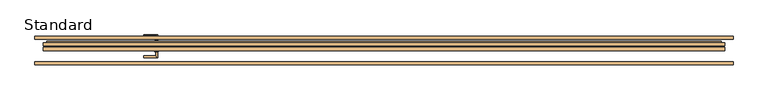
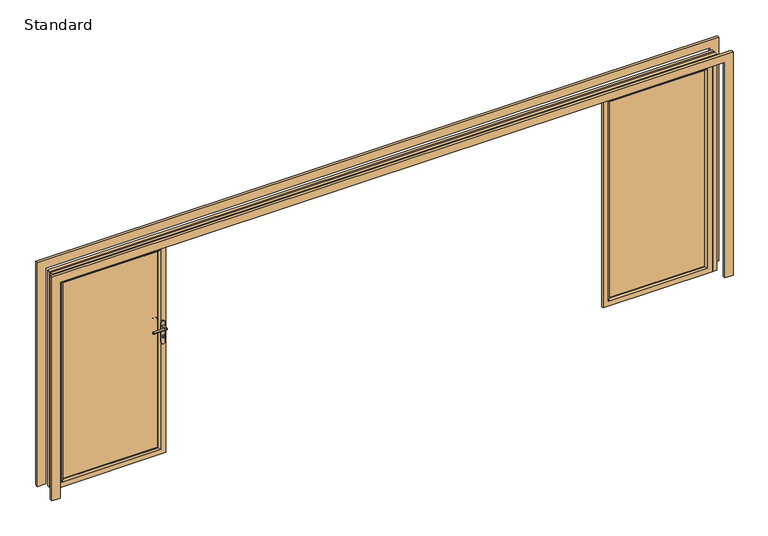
"""IFC4 building model written with IfcOpenShell, lengths in millimetres: door geometry, SMARTS_Visofold1000 : Standard."""

from ifc_helpers import new_model, si_unit, point, frame, frame_2d, origin, place, context, project, spatial, polyline, circle_curve, ellipse_curve, trimmed, segment, composite_curve, outline, extrude, faceted_brep, source, transform, mapped, element, save
from ifc_brep_helpers import plane_surface, cylinder_surface, advanced_brep


def standard_0b3dd210(model_context):
    return source(origin(), model_context, "Body", "SolidModel", [
        advanced_brep(
        [(2033.8333333, 13.3, 60.5), (2033.8333333, 17.4, 60.5), (2033.8333333, 17.4, 1939.5), (2033.8333333, 13.3, 1939.5), (1973.3333333, 17.4, 0.0), (1973.3333333, 0.0, 0.0), (1973.3333333, 0.0, 2000.0), (1973.3333333, 17.4, 2000.0), (2899.5, 17.4, 1939.5), (2899.5, 13.3, 1939.5), (2960.0, 0.0, 2000.0), (2960.0, 17.4, 2000.0), (2899.5, 17.4, 60.5), (2899.5, 13.3, 60.5), (2960.0, 0.0, 0.0), (2960.0, 17.4, 0.0), (2020.5333333, 0.0, 1952.8), (2912.8, 0.0, 1952.8), (2912.8, 0.0, 47.2), (2020.5333333, 0.0, 47.2), (1991.2024814, 34.8, 17.8691481), (1991.2024814, 17.4, 17.8691481), (1991.2024814, 17.4, 1982.1308519), (1991.2024814, 34.8, 1982.1308519), (2942.1308519, 17.4, 1982.1308519), (2942.1308519, 34.8, 1982.1308519), (2942.1308519, 17.4, 17.8691481), (2942.1308519, 34.8, 17.8691481), (2018.3333333, 17.4, 45.0), (2018.3333333, 34.8, 45.0), (2018.3333333, 34.8, 1955.0), (2018.3333333, 17.4, 1955.0), (2915.0, 34.8, 1955.0), (2915.0, 17.4, 1955.0), (2915.0, 34.8, 45.0), (2915.0, 17.4, 45.0)],
        [
            (0, 1),
            (1, 2),
            (2, 3),
            (3, 0),
            (4, 5),
            (5, 6),
            (6, 7),
            (7, 4),
            (2, 8),
            (8, 9),
            (9, 3),
            (6, 10),
            (10, 11),
            (11, 7),
            (8, 12),
            (12, 13),
            (13, 9),
            (10, 14),
            (14, 15),
            (15, 11),
            (12, 1),
            (0, 13),
            (5, 14),
            (16, 17),
            (17, 18),
            (18, 19),
            (19, 16),
            (4, 15),
            (19, 0, ellipse_curve(frame((2020.5333333, 13.3, 47.2), z_axis=(-0.70710678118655, 0.0, 0.707106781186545), x_axis=(-0.707106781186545, 0.0, -0.7071067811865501)), 18.8090404, 13.3)),
            (3, 16, ellipse_curve(frame((2020.5333333, 13.3, 1952.8), z_axis=(-0.7071067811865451, 0.0, -0.7071067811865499), x_axis=(0.70710678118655, 0.0, -0.7071067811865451)), 18.8090404, 13.3)),
            (9, 17, ellipse_curve(frame((2912.8, 13.3, 1952.8), z_axis=(-0.70710678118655, 0.0, 0.707106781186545), x_axis=(-0.707106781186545, 0.0, -0.7071067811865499)), 18.8090404, 13.3)),
            (13, 18, ellipse_curve(frame((2912.8, 13.3, 47.2), z_axis=(0.7071067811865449, 0.0, 0.70710678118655), x_axis=(-0.7071067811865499, 0.0, 0.707106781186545)), 18.8090404, 13.3)),
            (20, 21),
            (21, 22),
            (22, 23),
            (23, 20),
            (22, 24),
            (24, 25),
            (25, 23),
            (24, 26),
            (26, 27),
            (27, 25),
            (21, 26),
            (20, 27),
            (28, 29),
            (29, 30),
            (30, 31),
            (31, 28),
            (30, 32),
            (32, 33),
            (33, 31),
            (32, 34),
            (34, 35),
            (35, 33),
            (34, 29),
            (28, 35),
        ],
        [
            plane_surface(frame((2033.8333333, 17.4, 60.5), z_axis=(1.0, 0.0, 0.0), x_axis=(0.0, 0.0, 1.0))),
            plane_surface(frame((1973.3333333, 0.0, 0.0), z_axis=(-1.0, 0.0, 0.0), x_axis=(0.0, 0.0, 1.0))),
            plane_surface(frame((2033.8333333, 17.4, 1939.5), z_axis=(0.0, 0.0, -1.0), x_axis=(1.0, 0.0, 0.0))),
            plane_surface(frame((1973.3333333, 0.0, 2000.0), z_axis=(0.0, 0.0, 1.0), x_axis=(1.0, 0.0, 0.0))),
            plane_surface(frame((2899.5, 17.4, 1939.5), z_axis=(-1.0, 0.0, 0.0), x_axis=(0.0, 0.0, -1.0))),
            plane_surface(frame((2960.0, 0.0, 2000.0), z_axis=(1.0, 0.0, 0.0), x_axis=(0.0, 0.0, -1.0))),
            plane_surface(frame((2899.5, 17.4, 60.5), z_axis=(0.0, 0.0, 1.0), x_axis=(-1.0, 0.0, 0.0))),
            plane_surface(frame((2912.8, 0.0, 47.2), z_axis=(0.0, -1.0, 0.0), x_axis=(-1.0, 0.0, 0.0))),
            plane_surface(frame((2960.0, 0.0, 0.0), z_axis=(0.0, 0.0, -1.0), x_axis=(-1.0, 0.0, 0.0))),
            cylinder_surface(frame((2020.5333333, 13.3, 0.0), z_axis=(0.0, 0.0, -1.0), x_axis=(0.0, 1.0, 0.0)), 13.3),
            cylinder_surface(frame((1973.3333333, 13.3, 1952.8), z_axis=(-1.0, 0.0, 0.0), x_axis=(0.0, 1.0, 0.0)), 13.3),
            cylinder_surface(frame((2912.8, 13.3, 2000.0), z_axis=(0.0, 0.0, 1.0), x_axis=(0.0, 1.0, 0.0)), 13.3),
            cylinder_surface(frame((2960.0, 13.3, 47.2), z_axis=(1.0, 0.0, 0.0), x_axis=(0.0, 1.0, 0.0)), 13.3),
            plane_surface(frame((1991.2024814, 17.4, 17.8691481), z_axis=(-1.0, 0.0, 0.0), x_axis=(0.0, 0.0, 1.0))),
            plane_surface(frame((1991.2024814, 17.4, 1982.1308519), z_axis=(0.0, 0.0, 1.0), x_axis=(1.0, 0.0, 0.0))),
            plane_surface(frame((2942.1308519, 17.4, 1982.1308519), z_axis=(1.0, 0.0, 0.0), x_axis=(0.0, 0.0, -1.0))),
            plane_surface(frame((2960.0, 17.4, 0.0), z_axis=(0.0, 1.0, 0.0), x_axis=(-1.0, 0.0, 0.0))),
            plane_surface(frame((2942.1308519, 17.4, 17.8691481), z_axis=(0.0, 0.0, -1.0), x_axis=(-1.0, 0.0, 0.0))),
            plane_surface(frame((2018.3333333, 34.8, 45.0), z_axis=(1.0, 0.0, 0.0), x_axis=(0.0, 0.0, 1.0))),
            plane_surface(frame((2018.3333333, 34.8, 1955.0), z_axis=(0.0, 0.0, -1.0), x_axis=(1.0, 0.0, 0.0))),
            plane_surface(frame((2915.0, 34.8, 1955.0), z_axis=(-1.0, 0.0, 0.0), x_axis=(0.0, 0.0, -1.0))),
            plane_surface(frame((2915.0, 34.8, 45.0), z_axis=(0.0, 0.0, 1.0), x_axis=(-1.0, 0.0, 0.0))),
            plane_surface(frame((2915.0, 17.4, 45.0), z_axis=(0.0, 1.0, 0.0), x_axis=(-1.0, 0.0, 0.0))),
            plane_surface(frame((2942.1308519, 34.8, 17.8691481), z_axis=(0.0, 1.0, 0.0), x_axis=(-1.0, 0.0, 0.0))),
        ],
        [
            (0, [[1, 2, 3, 4]]),
            (1, [[5, 6, 7, 8]]),
            (2, [[-3, 9, 10, 11]]),
            (3, [[-7, 12, 13, 14]]),
            (4, [[-10, 15, 16, 17]]),
            (5, [[-13, 18, 19, 20]]),
            (6, [[-16, 21, -1, 22]]),
            (7, [[23, -18, -12, -6], [24, 25, 26, 27]]),
            (8, [[-19, -23, -5, 28]]),
            (9, [[29, -4, 30, -27]]),
            (10, [[-30, -11, 31, -24]]),
            (11, [[-31, -17, 32, -25]]),
            (12, [[-32, -22, -29, -26]]),
            (13, [[33, 34, 35, 36]]),
            (14, [[-35, 37, 38, 39]]),
            (15, [[-38, 40, 41, 42]]),
            (16, [[-14, -20, -28, -8], [43, -40, -37, -34]]),
            (17, [[-41, -43, -33, 44]]),
            (18, [[45, 46, 47, 48]]),
            (19, [[-47, 49, 50, 51]]),
            (20, [[-50, 52, 53, 54]]),
            (21, [[-53, 55, -45, 56]]),
            (22, [[-51, -54, -56, -48], [-21, -15, -9, -2]]),
            (23, [[-39, -42, -44, -36], [-55, -52, -49, -46]]),
        ],
    ),
        extrude(outline(polyline([(2033.8333333, 50.1484783), (2899.5, 50.1484783), (2899.5, 21.4), (2033.8333333, 21.4), (2033.8333333, 50.1484783)])), frame((0.0, 0.0, 60.5), z_axis=(0.0, 0.0, 1.0), x_axis=(1.0, 0.0, 0.0)), (0.0, 0.0, 1.0), 1879.0),
        advanced_brep(
        [(-2003.3333333, 75.0, 1232.5996413), (-2003.3333333, 75.0, 1215.5996413), (-2003.3333333, 130.0, 1232.5996413), (-2003.3333333, 130.0, 1215.5996413), (-2118.3333333, 130.0, 1232.5996413), (-2118.3333333, 130.0, 1215.5996413)],
        [
            (0, 1, circle_curve(frame((-2003.3333333, 75.0, 1224.0996413), z_axis=(0.0, -1.0, 0.0), x_axis=(0.0, 0.0, -1.0)), 8.5)),
            (1, 0, circle_curve(frame((-2003.3333333, 75.0, 1224.0996413), z_axis=(0.0, -1.0, 0.0), x_axis=(0.0, 0.0, -1.0)), 8.5)),
            (0, 2),
            (2, 3, ellipse_curve(frame((-2003.3333333, 130.0, 1224.0996413), z_axis=(0.7071067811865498, -0.7071067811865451, 0.0), x_axis=(-0.707106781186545, -0.70710678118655, 0.0)), 12.0208153, 8.5)),
            (3, 1),
            (3, 2, ellipse_curve(frame((-2003.3333333, 130.0, 1224.0996413), z_axis=(0.7071067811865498, -0.7071067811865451, 0.0), x_axis=(-0.707106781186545, -0.70710678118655, 0.0)), 12.0208153, 8.5)),
            (4, 5, circle_curve(frame((-2118.3333333, 130.0, 1224.0996413), z_axis=(-1.0, 0.0, 0.0), x_axis=(0.0, 0.0, -1.0)), 8.5)),
            (5, 4, circle_curve(frame((-2118.3333333, 130.0, 1224.0996413), z_axis=(-1.0, 0.0, 0.0), x_axis=(0.0, 0.0, -1.0)), 8.5)),
            (2, 4),
            (5, 3),
        ],
        [
            plane_surface(frame((-2003.3333333, 75.0, 1224.0996413), z_axis=(0.0, -1.0, 0.0), x_axis=(0.0, 0.0, -1.0))),
            cylinder_surface(frame((-2003.3333333, 75.0, 1224.0996413), z_axis=(0.0, -1.0, 0.0), x_axis=(0.0, 0.0, -1.0)), 8.5),
            plane_surface(frame((-2118.3333333, 130.0, 1224.0996413), z_axis=(-1.0, 0.0, 0.0), x_axis=(0.0, 0.0, -1.0))),
            cylinder_surface(frame((-2003.3333333, 130.0, 1224.0996413), z_axis=(1.0, 0.0, 0.0), x_axis=(0.0, 0.0, -1.0)), 8.5),
        ],
        [
            (0, [[1, 2]]),
            (1, [[3, 4, 5, -1]]),
            (1, [[-5, 6, -3, -2]]),
            (2, [[7, 8]]),
            (3, [[9, -8, 10, -4]]),
            (3, [[-10, -7, -9, -6]]),
        ],
    ),
        extrude(outline(composite_curve([segment(polyline([(1258.0996413, -2019.3333333), (1070.0996413, -2019.3333333)]), True, "CONTINUOUS"), segment(trimmed(circle_curve(frame_2d((1070.0996413, -2003.3333333)), 16.0), [point((1070.0996413, -2019.3333333))], [point((1070.0996413, -1987.3333333))], False, "CARTESIAN"), True, "CONTINUOUS"), segment(polyline([(1070.0996413, -1987.3333333), (1258.0996413, -1987.3333333)]), True, "CONTINUOUS"), segment(trimmed(circle_curve(frame_2d((1258.0996413, -2003.3333333)), 16.0), [point((1258.0996413, -1987.3333333))], [point((1258.0996413, -2019.3333333))], False, "CARTESIAN"), True, "CONTINUOUS")], self_intersect=False)), frame((0.0, 75.0, 0.0), z_axis=(0.0, 1.0, 0.0), x_axis=(0.0, 0.0, 1.0)), (0.0, 0.0, 1.0), 10.0),
        advanced_brep(
        [(-2011.8333333, 0.0, 1224.0996413), (-1994.8333333, 0.0, 1224.0996413), (-1994.8333333, -63.5, 1224.0996413), (-2011.8333333, -46.5, 1224.0996413), (-2118.3333333, -46.5, 1224.0996413), (-2118.3333333, -63.5, 1224.0996413)],
        [
            (0, 1, circle_curve(frame((-2003.3333333, 0.0, 1224.0996413), z_axis=(0.0, 1.0, 0.0), x_axis=(1.0, 0.0, 0.0)), 8.5)),
            (1, 0, circle_curve(frame((-2003.3333333, 0.0, 1224.0996413), z_axis=(0.0, 1.0, 0.0), x_axis=(1.0, 0.0, 0.0)), 8.5)),
            (1, 2),
            (2, 3, ellipse_curve(frame((-2003.3333333, -55.0, 1224.0996413), z_axis=(0.7071067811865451, 0.7071067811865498, 0.0), x_axis=(-0.7071067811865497, 0.7071067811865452, 0.0)), 12.0208153, 8.5)),
            (3, 0),
            (3, 2, ellipse_curve(frame((-2003.3333333, -55.0, 1224.0996413), z_axis=(0.7071067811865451, 0.7071067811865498, 0.0), x_axis=(-0.7071067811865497, 0.7071067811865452, 0.0)), 12.0208153, 8.5)),
            (4, 5, circle_curve(frame((-2118.3333333, -55.0, 1224.0996413), z_axis=(-1.0, 0.0, 0.0), x_axis=(0.0, -1.0, 0.0)), 8.5)),
            (5, 4, circle_curve(frame((-2118.3333333, -55.0, 1224.0996413), z_axis=(-1.0, 0.0, 0.0), x_axis=(0.0, -1.0, 0.0)), 8.5)),
            (2, 5),
            (4, 3),
        ],
        [
            plane_surface(frame((-2003.3333333, 0.0, 1224.0996413), z_axis=(0.0, 1.0, 0.0), x_axis=(0.0, 0.0, -1.0))),
            cylinder_surface(frame((-2003.3333333, 0.0, 1224.0996413), z_axis=(0.0, 1.0, 0.0), x_axis=(1.0, 0.0, 0.0)), 8.5),
            plane_surface(frame((-2118.3333333, -55.0, 1224.0996413), z_axis=(-1.0, 0.0, 0.0), x_axis=(0.0, 0.0, -1.0))),
            cylinder_surface(frame((-2003.3333333, -55.0, 1224.0996413), z_axis=(1.0, 0.0, 0.0), x_axis=(0.0, -1.0, 0.0)), 8.5),
        ],
        [
            (0, [[1, 2]]),
            (1, [[3, 4, 5, -2]]),
            (1, [[-5, 6, -3, -1]]),
            (2, [[7, 8]]),
            (3, [[9, -7, 10, -4]]),
            (3, [[-10, -8, -9, -6]]),
        ],
    ),
        extrude(outline(composite_curve([segment(polyline([(1258.0996413, -2019.3333333), (1070.0996413, -2019.3333333)]), True, "CONTINUOUS"), segment(trimmed(circle_curve(frame_2d((1070.0996413, -2003.3333333)), 16.0), [point((1070.0996413, -2019.3333333))], [point((1070.0996413, -1987.3333333))], False, "CARTESIAN"), True, "CONTINUOUS"), segment(polyline([(1070.0996413, -1987.3333333), (1258.0996413, -1987.3333333)]), True, "CONTINUOUS"), segment(trimmed(circle_curve(frame_2d((1258.0996413, -2003.3333333)), 16.0), [point((1258.0996413, -1987.3333333))], [point((1258.0996413, -2019.3333333))], False, "CARTESIAN"), True, "CONTINUOUS")], self_intersect=False)), frame((0.0, -10.0, 0.0), z_axis=(0.0, 1.0, 0.0), x_axis=(0.0, 0.0, 1.0)), (0.0, 0.0, 1.0), 10.0),
        extrude(outline(composite_curve([segment(polyline([(1125.1769586, -2008.3227104), (1117.5996413, -2008.3227104)]), True, "CONTINUOUS"), segment(trimmed(circle_curve(frame_2d((1117.5996413, -2003.3227104)), 5.0), [point((1117.5996413, -2008.3227104))], [point((1117.5996413, -1998.3227104))], False, "CARTESIAN"), True, "CONTINUOUS"), segment(polyline([(1117.5996413, -1998.3227104), (1125.27562, -1998.3227104)]), True, "CONTINUOUS"), segment(trimmed(circle_curve(frame_2d((1132.0996413, -2003.3905239)), 8.5), [point((1125.27562, -1998.3227104))], [point((1125.1769586, -2008.3227104))], False, "CARTESIAN"), True, "CONTINUOUS")], self_intersect=False)), frame((0.0, 85.0, 0.0), z_axis=(0.0, 1.0, 0.0), x_axis=(0.0, 0.0, 1.0)), (0.0, 0.0, 1.0), 2.0),
        extrude(outline(composite_curve([segment(polyline([(1125.1769586, -2008.3227104), (1117.5996413, -2008.3227104)]), True, "CONTINUOUS"), segment(trimmed(circle_curve(frame_2d((1117.5996413, -2003.3227104)), 5.0), [point((1117.5996413, -2008.3227104))], [point((1117.5996413, -1998.3227104))], False, "CARTESIAN"), True, "CONTINUOUS"), segment(polyline([(1117.5996413, -1998.3227104), (1125.27562, -1998.3227104)]), True, "CONTINUOUS"), segment(trimmed(circle_curve(frame_2d((1132.0996413, -2003.3905239)), 8.5), [point((1125.27562, -1998.3227104))], [point((1125.1769586, -2008.3227104))], False, "CARTESIAN"), True, "CONTINUOUS")], self_intersect=False)), frame((0.0, -12.0, 0.0), z_axis=(0.0, 1.0, 0.0), x_axis=(0.0, 0.0, 1.0)), (0.0, 0.0, 1.0), 2.0),
        extrude(outline(polyline([(45.0, -2018.3333333), (1955.0, -2018.3333333), (1955.0, -2915.0), (45.0, -2915.0), (45.0, -2018.3333333)]), holes=[polyline([(1939.5, -2033.8333333), (60.5, -2033.8333333), (60.5, -2899.5), (1939.5, -2899.5), (1939.5, -2033.8333333)])]), frame((0.0, 17.4, 0.0), z_axis=(0.0, 1.0, 0.0), x_axis=(0.0, 0.0, 1.0)), (0.0, 0.0, 1.0), 35.0),
        faceted_brep([(-1973.3333333, 74.4, 0.0), (-1973.3333333, 74.4, 2000.0), (-1973.3333333, 52.4, 2000.0), (-1973.3333333, 52.4, 0.0), (-2033.8333333, 52.4, 60.5), (-2033.8333333, 52.4, 1939.5), (-2033.8333333, 74.4, 1939.5), (-2033.8333333, 74.4, 60.5), (-2960.0, 74.4, 0.0), (-2960.0, 52.4, 0.0), (-2960.0, 74.4, 2000.0), (-2960.0, 52.4, 2000.0), (-2899.5, 52.4, 1939.5), (-2899.5, 74.4, 1939.5), (-2899.5, 52.4, 60.5), (-2899.5, 74.4, 60.5), (-1991.2024814, 34.8, 17.8691481), (-1991.2024814, 34.8, 1982.1308519), (-2942.1308519, 34.8, 1982.1308519), (-2942.1308519, 34.8, 17.8691481), (-2018.3333333, 34.8, 1955.0), (-2018.3333333, 34.8, 45.0), (-2915.0, 34.8, 45.0), (-2915.0, 34.8, 1955.0), (-1991.2024814, 52.4, 17.8691481), (-1991.2024814, 52.4, 1982.1308519), (-2018.3333333, 52.4, 1955.0), (-2018.3333333, 52.4, 45.0), (-2942.1308519, 52.4, 1982.1308519), (-2915.0, 52.4, 1955.0), (-2942.1308519, 52.4, 17.8691481), (-2915.0, 52.4, 45.0)], [[[0, 1, 2, 3]], [[4, 5, 6, 7]], [[8, 0, 3, 9]], [[1, 10, 11, 2]], [[5, 12, 13, 6]], [[10, 8, 9, 11]], [[12, 14, 15, 13]], [[1, 0, 8, 10], [7, 6, 13, 15]], [[14, 4, 7, 15]], [[16, 17, 18, 19], [20, 21, 22, 23]], [[24, 25, 17, 16]], [[21, 20, 26, 27]], [[25, 28, 18, 17]], [[20, 23, 29, 26]], [[28, 30, 19, 18]], [[23, 22, 31, 29]], [[30, 24, 16, 19]], [[3, 2, 11, 9], [25, 24, 30, 28]], [[27, 26, 29, 31], [5, 4, 14, 12]], [[22, 21, 27, 31]]]),
        advanced_brep(
        [(-2033.8333333, 13.3, 60.5), (-2033.8333333, 13.3, 1939.5), (-2033.8333333, 17.4, 1939.5), (-2033.8333333, 17.4, 60.5), (-1973.3333333, 17.4, 0.0), (-1973.3333333, 17.4, 2000.0), (-1973.3333333, 0.0, 2000.0), (-1973.3333333, 0.0, 0.0), (-2899.5, 13.3, 1939.5), (-2899.5, 17.4, 1939.5), (-2960.0, 17.4, 2000.0), (-2960.0, 0.0, 2000.0), (-2899.5, 13.3, 60.5), (-2899.5, 17.4, 60.5), (-2960.0, 17.4, 0.0), (-2960.0, 0.0, 0.0), (-2020.5333333, 0.0, 1952.8), (-2020.5333333, 0.0, 47.2), (-2912.8, 0.0, 47.2), (-2912.8, 0.0, 1952.8), (-1991.2024814, 34.8, 17.8691481), (-1991.2024814, 34.8, 1982.1308519), (-1991.2024814, 17.4, 1982.1308519), (-1991.2024814, 17.4, 17.8691481), (-2942.1308519, 34.8, 1982.1308519), (-2942.1308519, 17.4, 1982.1308519), (-2942.1308519, 34.8, 17.8691481), (-2942.1308519, 17.4, 17.8691481), (-2018.3333333, 17.4, 45.0), (-2018.3333333, 17.4, 1955.0), (-2018.3333333, 34.8, 1955.0), (-2018.3333333, 34.8, 45.0), (-2915.0, 17.4, 1955.0), (-2915.0, 34.8, 1955.0), (-2915.0, 17.4, 45.0), (-2915.0, 34.8, 45.0)],
        [
            (0, 1),
            (1, 2),
            (2, 3),
            (3, 0),
            (4, 5),
            (5, 6),
            (6, 7),
            (7, 4),
            (1, 8),
            (8, 9),
            (9, 2),
            (5, 10),
            (10, 11),
            (11, 6),
            (8, 12),
            (12, 13),
            (13, 9),
            (10, 14),
            (14, 15),
            (15, 11),
            (12, 0),
            (3, 13),
            (15, 7),
            (16, 17),
            (17, 18),
            (18, 19),
            (19, 16),
            (14, 4),
            (16, 1, ellipse_curve(frame((-2020.5333333, 13.3, 1952.8), z_axis=(0.7071067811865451, 0.0, -0.7071067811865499), x_axis=(-0.70710678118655, 0.0, -0.7071067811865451)), 18.8090404, 13.3)),
            (0, 17, ellipse_curve(frame((-2020.5333333, 13.3, 47.2), z_axis=(0.70710678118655, 0.0, 0.707106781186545), x_axis=(0.707106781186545, 0.0, -0.7071067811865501)), 18.8090404, 13.3)),
            (19, 8, ellipse_curve(frame((-2912.8, 13.3, 1952.8), z_axis=(0.70710678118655, 0.0, 0.707106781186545), x_axis=(0.707106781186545, 0.0, -0.7071067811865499)), 18.8090404, 13.3)),
            (18, 12, ellipse_curve(frame((-2912.8, 13.3, 47.2), z_axis=(-0.7071067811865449, 0.0, 0.70710678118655), x_axis=(0.7071067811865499, 0.0, 0.707106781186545)), 18.8090404, 13.3)),
            (20, 21),
            (21, 22),
            (22, 23),
            (23, 20),
            (21, 24),
            (24, 25),
            (25, 22),
            (24, 26),
            (26, 27),
            (27, 25),
            (27, 23),
            (26, 20),
            (28, 29),
            (29, 30),
            (30, 31),
            (31, 28),
            (29, 32),
            (32, 33),
            (33, 30),
            (32, 34),
            (34, 35),
            (35, 33),
            (34, 28),
            (31, 35),
        ],
        [
            plane_surface(frame((-2033.8333333, 17.4, 60.5), z_axis=(-1.0, 0.0, 0.0), x_axis=(0.0, 0.0, 1.0))),
            plane_surface(frame((-1973.3333333, 0.0, 0.0), z_axis=(1.0, 0.0, 0.0), x_axis=(0.0, 0.0, 1.0))),
            plane_surface(frame((-2033.8333333, 17.4, 1939.5), z_axis=(0.0, 0.0, -1.0), x_axis=(-1.0, 0.0, 0.0))),
            plane_surface(frame((-1973.3333333, 0.0, 2000.0), z_axis=(0.0, 0.0, 1.0), x_axis=(-1.0, 0.0, 0.0))),
            plane_surface(frame((-2899.5, 17.4, 1939.5), z_axis=(1.0, 0.0, 0.0), x_axis=(0.0, 0.0, -1.0))),
            plane_surface(frame((-2960.0, 0.0, 2000.0), z_axis=(-1.0, 0.0, 0.0), x_axis=(0.0, 0.0, -1.0))),
            plane_surface(frame((-2899.5, 17.4, 60.5), z_axis=(0.0, 0.0, 1.0), x_axis=(1.0, 0.0, 0.0))),
            plane_surface(frame((-2912.8, 0.0, 47.2), z_axis=(0.0, -1.0, 0.0), x_axis=(1.0, 0.0, 0.0))),
            plane_surface(frame((-2960.0, 0.0, 0.0), z_axis=(0.0, 0.0, -1.0), x_axis=(1.0, 0.0, 0.0))),
            cylinder_surface(frame((-2020.5333333, 13.3, 0.0), z_axis=(0.0, 0.0, -1.0), x_axis=(0.0, 1.0, 0.0)), 13.3),
            cylinder_surface(frame((-1973.3333333, 13.3, 1952.8), z_axis=(1.0, 0.0, 0.0), x_axis=(0.0, 1.0, 0.0)), 13.3),
            cylinder_surface(frame((-2912.8, 13.3, 2000.0), z_axis=(0.0, 0.0, 1.0), x_axis=(0.0, 1.0, 0.0)), 13.3),
            cylinder_surface(frame((-2960.0, 13.3, 47.2), z_axis=(-1.0, 0.0, 0.0), x_axis=(0.0, 1.0, 0.0)), 13.3),
            plane_surface(frame((-1991.2024814, 17.4, 17.8691481), z_axis=(1.0, 0.0, 0.0), x_axis=(0.0, 0.0, 1.0))),
            plane_surface(frame((-1991.2024814, 17.4, 1982.1308519), z_axis=(0.0, 0.0, 1.0), x_axis=(-1.0, 0.0, 0.0))),
            plane_surface(frame((-2942.1308519, 17.4, 1982.1308519), z_axis=(-1.0, 0.0, 0.0), x_axis=(0.0, 0.0, -1.0))),
            plane_surface(frame((-2960.0, 17.4, 0.0), z_axis=(0.0, 1.0, 0.0), x_axis=(1.0, 0.0, 0.0))),
            plane_surface(frame((-2942.1308519, 17.4, 17.8691481), z_axis=(0.0, 0.0, -1.0), x_axis=(1.0, 0.0, 0.0))),
            plane_surface(frame((-2018.3333333, 34.8, 45.0), z_axis=(-1.0, 0.0, 0.0), x_axis=(0.0, 0.0, 1.0))),
            plane_surface(frame((-2018.3333333, 34.8, 1955.0), z_axis=(0.0, 0.0, -1.0), x_axis=(-1.0, 0.0, 0.0))),
            plane_surface(frame((-2915.0, 34.8, 1955.0), z_axis=(1.0, 0.0, 0.0), x_axis=(0.0, 0.0, -1.0))),
            plane_surface(frame((-2915.0, 34.8, 45.0), z_axis=(0.0, 0.0, 1.0), x_axis=(1.0, 0.0, 0.0))),
            plane_surface(frame((-2915.0, 17.4, 45.0), z_axis=(0.0, 1.0, 0.0), x_axis=(1.0, 0.0, 0.0))),
            plane_surface(frame((-2942.1308519, 34.8, 17.8691481), z_axis=(0.0, 1.0, 0.0), x_axis=(1.0, 0.0, 0.0))),
        ],
        [
            (0, [[1, 2, 3, 4]]),
            (1, [[5, 6, 7, 8]]),
            (2, [[9, 10, 11, -2]]),
            (3, [[12, 13, 14, -6]]),
            (4, [[15, 16, 17, -10]]),
            (5, [[18, 19, 20, -13]]),
            (6, [[21, -4, 22, -16]]),
            (7, [[-7, -14, -20, 23], [24, 25, 26, 27]]),
            (8, [[28, -8, -23, -19]]),
            (9, [[-24, 29, -1, 30]]),
            (10, [[-27, 31, -9, -29]]),
            (11, [[-26, 32, -15, -31]]),
            (12, [[-25, -30, -21, -32]]),
            (13, [[33, 34, 35, 36]]),
            (14, [[37, 38, 39, -34]]),
            (15, [[40, 41, 42, -38]]),
            (16, [[-5, -28, -18, -12], [-35, -39, -42, 43]]),
            (17, [[44, -36, -43, -41]]),
            (18, [[45, 46, 47, 48]]),
            (19, [[49, 50, 51, -46]]),
            (20, [[52, 53, 54, -50]]),
            (21, [[55, -48, 56, -53]]),
            (22, [[-45, -55, -52, -49], [-3, -11, -17, -22]]),
            (23, [[-33, -44, -40, -37], [-47, -51, -54, -56]]),
        ],
    ),
        extrude(outline(polyline([(-2033.8333333, 50.1484783), (-2033.8333333, 21.4), (-2899.5, 21.4), (-2899.5, 50.1484783), (-2033.8333333, 50.1484783)])), frame((0.0, 0.0, 60.5), z_axis=(0.0, 0.0, 1.0), x_axis=(1.0, 0.0, 0.0)), (0.0, 0.0, 1.0), 1879.0),
        extrude(outline(polyline([(2058.6516063, -3000.0), (2058.6516063, 3000.0), (0.0, 3000.0), (0.0, 3075.0), (2133.6516063, 3075.0), (2133.6516063, -3075.0), (0.0, -3075.0), (0.0, -3000.0), (2058.6516063, -3000.0)])), frame((0.0, 100.0, 0.0), z_axis=(0.0, 1.0, 0.0), x_axis=(0.0, 0.0, 1.0)), (0.0, 0.0, 1.0), 25.0),
        extrude(outline(polyline([(2133.6516063, -3075.0), (0.0, -3075.0), (0.0, -3000.0), (2058.6516063, -3000.0), (2058.6516063, 3000.0), (0.0, 3000.0), (0.0, 3075.0), (2133.6516063, 3075.0), (2133.6516063, -3075.0)])), frame((0.0, -125.0, 0.0), z_axis=(0.0, 1.0, 0.0), x_axis=(0.0, 0.0, 1.0)), (0.0, 0.0, 1.0), 25.0),
        extrude(outline(polyline([(0.0, 2968.8), (0.0, 3000.0), (2058.6516063, 3000.0), (2058.6516063, -3000.0), (0.0, -3000.0), (0.0, -2968.8), (2027.4516063, -2968.8), (2027.4516063, 2968.8), (0.0, 2968.8)])), frame((0.0, 0.0, 0.0), z_axis=(0.0, 1.0, 0.0), x_axis=(0.0, 0.0, 1.0)), (0.0, 0.0, 1.0), 29.65),
        faceted_brep([(3000.0, 44.85, 0.0), (2968.8, 44.85, 0.0), (2968.8, 77.4, 0.0), (2948.3, 77.4, 0.0), (2948.3, 81.9, 0.0), (2970.6, 81.9, 0.0), (2970.6, 70.0, 0.0), (3000.0, 70.0, 0.0), (3000.0, 44.85, 2058.6516063), (-3000.0, 44.85, 2058.6516063), (-3000.0, 44.85, 0.0), (-2968.8, 44.85, 0.0), (-2968.8, 44.85, 2027.4516063), (2968.8, 44.85, 2027.4516063), (2968.8, 77.4, 2027.4516063), (-2968.8, 77.4, 2027.4516063), (-2968.8, 77.4, 0.0), (-2948.3, 77.4, 0.0), (-2948.3, 77.4, 2006.9516063), (2948.3, 77.4, 2006.9516063), (2948.3, 81.9, 2006.9516063), (-2948.3, 81.9, 2006.9516063), (-2948.3, 81.9, 0.0), (-2970.6, 81.9, 0.0), (-2970.6, 81.9, 2029.2516063), (2970.6, 81.9, 2029.2516063), (2970.6, 70.0, 2029.2516063), (-2970.6, 70.0, 2029.2516063), (-2970.6, 70.0, 0.0), (-3000.0, 70.0, 0.0), (-3000.0, 70.0, 2058.6516063), (3000.0, 70.0, 2058.6516063)], [[[0, 1, 2, 3, 4, 5, 6, 7]], [[1, 0, 8, 9, 10, 11, 12, 13]], [[2, 1, 13, 14]], [[3, 2, 14, 15, 16, 17, 18, 19]], [[4, 3, 19, 20]], [[5, 4, 20, 21, 22, 23, 24, 25]], [[6, 5, 25, 26]], [[7, 6, 26, 27, 28, 29, 30, 31]], [[0, 7, 31, 8]], [[10, 29, 28, 23, 22, 17, 16, 11]], [[9, 30, 29, 10]], [[27, 24, 23, 28]], [[21, 18, 17, 22]], [[15, 12, 11, 16]], [[8, 31, 30, 9]], [[14, 13, 12, 15]], [[26, 25, 24, 27]], [[20, 19, 18, 21]]]),
    ])


if __name__ == "__main__":
    model = new_model("IFC4")
    model_context = context("Model", 3, world=origin())
    ifc_project = project(units=[si_unit("LENGTHUNIT", "METRE", prefix="MILLI")], contexts=[model_context])
    site = spatial("IfcSite", under=ifc_project)
    building = spatial("IfcBuilding", under=site)
    placement = place(None, origin())
    standard_shape = standard_0b3dd210(model_context)
    element("IfcDoor", 1, ObjectType="SMARTS_Visofold1000 : Standard", at=placement, inside=building, context=model_context, shape_type="MappedRepresentation", body=[
        mapped(standard_shape, transform((0.0, 0.0, 0.0), x_axis=(1.0, 0.0, 0.0), y_axis=(0.0, 1.0, 0.0), z_axis=(0.0, 0.0, 1.0))),
    ])
    save(model, "model.ifc")
